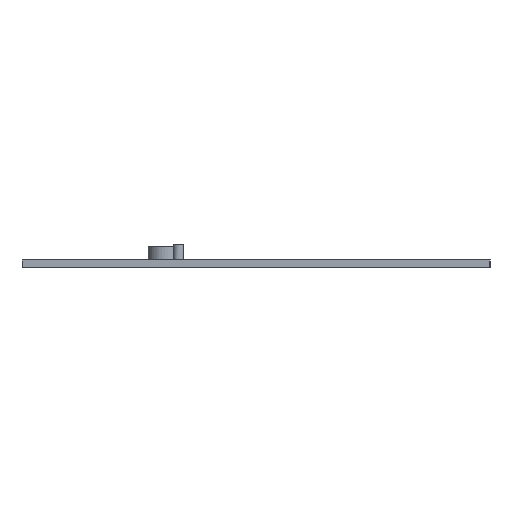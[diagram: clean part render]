
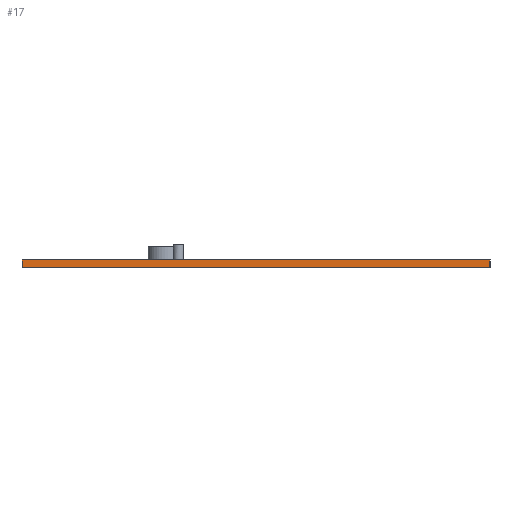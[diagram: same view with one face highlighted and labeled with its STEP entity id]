
A CAD part, left-side view. The second image highlights one B-rep face of the part: STEP entity #17.
In plain terms, the highlighted planar face has unit normal (-1, 0, 0).
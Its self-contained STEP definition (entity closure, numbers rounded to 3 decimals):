
#17 = ADVANCED_FACE('',(#18),#32,.F.);
#18 = FACE_BOUND('',#19,.F.);
#19 = EDGE_LOOP('',(#20,#55,#83,#111));
#20 = ORIENTED_EDGE('',*,*,#21,.F.);
#21 = EDGE_CURVE('',#22,#24,#26,.T.);
#22 = VERTEX_POINT('',#23);
#23 = CARTESIAN_POINT('',(0.,180.,3.));
#24 = VERTEX_POINT('',#25);
#25 = CARTESIAN_POINT('',(0.,180.,0.));
#26 = SURFACE_CURVE('',#27,(#31,#43),.PCURVE_S1.);
#27 = LINE('',#28,#29);
#28 = CARTESIAN_POINT('',(0.,180.,3.));
#29 = VECTOR('',#30,1.);
#30 = DIRECTION('',(0.,0.,-1.));
#31 = PCURVE('',#32,#37);
#32 = PLANE('',#33);
#33 = AXIS2_PLACEMENT_3D('',#34,#35,#36);
#34 = CARTESIAN_POINT('',(0.,180.,3.));
#35 = DIRECTION('',(1.,0.,0.));
#36 = DIRECTION('',(0.,0.,-1.));
#37 = DEFINITIONAL_REPRESENTATION('',(#38),#42);
#38 = LINE('',#39,#40);
#39 = CARTESIAN_POINT('',(0.,0.));
#40 = VECTOR('',#41,1.);
#41 = DIRECTION('',(1.,0.));
#42 = ( GEOMETRIC_REPRESENTATION_CONTEXT(2) 
PARAMETRIC_REPRESENTATION_CONTEXT() REPRESENTATION_CONTEXT('2D SPACE',''
  ) );
#43 = PCURVE('',#44,#49);
#44 = PLANE('',#45);
#45 = AXIS2_PLACEMENT_3D('',#46,#47,#48);
#46 = CARTESIAN_POINT('',(0.,180.,3.));
#47 = DIRECTION('',(0.,-1.,0.));
#48 = DIRECTION('',(0.,0.,-1.));
#49 = DEFINITIONAL_REPRESENTATION('',(#50),#54);
#50 = LINE('',#51,#52);
#51 = CARTESIAN_POINT('',(0.,0.));
#52 = VECTOR('',#53,1.);
#53 = DIRECTION('',(1.,0.));
#54 = ( GEOMETRIC_REPRESENTATION_CONTEXT(2) 
PARAMETRIC_REPRESENTATION_CONTEXT() REPRESENTATION_CONTEXT('2D SPACE',''
  ) );
#55 = ORIENTED_EDGE('',*,*,#56,.T.);
#56 = EDGE_CURVE('',#22,#57,#59,.T.);
#57 = VERTEX_POINT('',#58);
#58 = CARTESIAN_POINT('',(0.,0.,3.));
#59 = SURFACE_CURVE('',#60,(#64,#71),.PCURVE_S1.);
#60 = LINE('',#61,#62);
#61 = CARTESIAN_POINT('',(0.,180.,3.));
#62 = VECTOR('',#63,1.);
#63 = DIRECTION('',(0.,-1.,0.));
#64 = PCURVE('',#32,#65);
#65 = DEFINITIONAL_REPRESENTATION('',(#66),#70);
#66 = LINE('',#67,#68);
#67 = CARTESIAN_POINT('',(0.,0.));
#68 = VECTOR('',#69,1.);
#69 = DIRECTION('',(0.,-1.));
#70 = ( GEOMETRIC_REPRESENTATION_CONTEXT(2) 
PARAMETRIC_REPRESENTATION_CONTEXT() REPRESENTATION_CONTEXT('2D SPACE',''
  ) );
#71 = PCURVE('',#72,#77);
#72 = PLANE('',#73);
#73 = AXIS2_PLACEMENT_3D('',#74,#75,#76);
#74 = CARTESIAN_POINT('',(0.,180.,3.));
#75 = DIRECTION('',(0.,0.,-1.));
#76 = DIRECTION('',(1.,0.,0.));
#77 = DEFINITIONAL_REPRESENTATION('',(#78),#82);
#78 = LINE('',#79,#80);
#79 = CARTESIAN_POINT('',(0.,0.));
#80 = VECTOR('',#81,1.);
#81 = DIRECTION('',(0.,1.));
#82 = ( GEOMETRIC_REPRESENTATION_CONTEXT(2) 
PARAMETRIC_REPRESENTATION_CONTEXT() REPRESENTATION_CONTEXT('2D SPACE',''
  ) );
#83 = ORIENTED_EDGE('',*,*,#84,.T.);
#84 = EDGE_CURVE('',#57,#85,#87,.T.);
#85 = VERTEX_POINT('',#86);
#86 = CARTESIAN_POINT('',(0.,0.,0.));
#87 = SURFACE_CURVE('',#88,(#92,#99),.PCURVE_S1.);
#88 = LINE('',#89,#90);
#89 = CARTESIAN_POINT('',(0.,0.,3.));
#90 = VECTOR('',#91,1.);
#91 = DIRECTION('',(0.,0.,-1.));
#92 = PCURVE('',#32,#93);
#93 = DEFINITIONAL_REPRESENTATION('',(#94),#98);
#94 = LINE('',#95,#96);
#95 = CARTESIAN_POINT('',(0.,-180.));
#96 = VECTOR('',#97,1.);
#97 = DIRECTION('',(1.,0.));
#98 = ( GEOMETRIC_REPRESENTATION_CONTEXT(2) 
PARAMETRIC_REPRESENTATION_CONTEXT() REPRESENTATION_CONTEXT('2D SPACE',''
  ) );
#99 = PCURVE('',#100,#105);
#100 = PLANE('',#101);
#101 = AXIS2_PLACEMENT_3D('',#102,#103,#104);
#102 = CARTESIAN_POINT('',(0.,0.,3.));
#103 = DIRECTION('',(0.,-1.,0.));
#104 = DIRECTION('',(0.,0.,-1.));
#105 = DEFINITIONAL_REPRESENTATION('',(#106),#110);
#106 = LINE('',#107,#108);
#107 = CARTESIAN_POINT('',(0.,0.));
#108 = VECTOR('',#109,1.);
#109 = DIRECTION('',(1.,0.));
#110 = ( GEOMETRIC_REPRESENTATION_CONTEXT(2) 
PARAMETRIC_REPRESENTATION_CONTEXT() REPRESENTATION_CONTEXT('2D SPACE',''
  ) );
#111 = ORIENTED_EDGE('',*,*,#112,.F.);
#112 = EDGE_CURVE('',#24,#85,#113,.T.);
#113 = SURFACE_CURVE('',#114,(#118,#125),.PCURVE_S1.);
#114 = LINE('',#115,#116);
#115 = CARTESIAN_POINT('',(0.,180.,0.));
#116 = VECTOR('',#117,1.);
#117 = DIRECTION('',(0.,-1.,0.));
#118 = PCURVE('',#32,#119);
#119 = DEFINITIONAL_REPRESENTATION('',(#120),#124);
#120 = LINE('',#121,#122);
#121 = CARTESIAN_POINT('',(3.,0.));
#122 = VECTOR('',#123,1.);
#123 = DIRECTION('',(0.,-1.));
#124 = ( GEOMETRIC_REPRESENTATION_CONTEXT(2) 
PARAMETRIC_REPRESENTATION_CONTEXT() REPRESENTATION_CONTEXT('2D SPACE',''
  ) );
#125 = PCURVE('',#126,#131);
#126 = PLANE('',#127);
#127 = AXIS2_PLACEMENT_3D('',#128,#129,#130);
#128 = CARTESIAN_POINT('',(0.,180.,0.));
#129 = DIRECTION('',(0.,0.,-1.));
#130 = DIRECTION('',(1.,0.,0.));
#131 = DEFINITIONAL_REPRESENTATION('',(#132),#136);
#132 = LINE('',#133,#134);
#133 = CARTESIAN_POINT('',(0.,0.));
#134 = VECTOR('',#135,1.);
#135 = DIRECTION('',(0.,1.));
#136 = ( GEOMETRIC_REPRESENTATION_CONTEXT(2) 
PARAMETRIC_REPRESENTATION_CONTEXT() REPRESENTATION_CONTEXT('2D SPACE',''
  ) );
